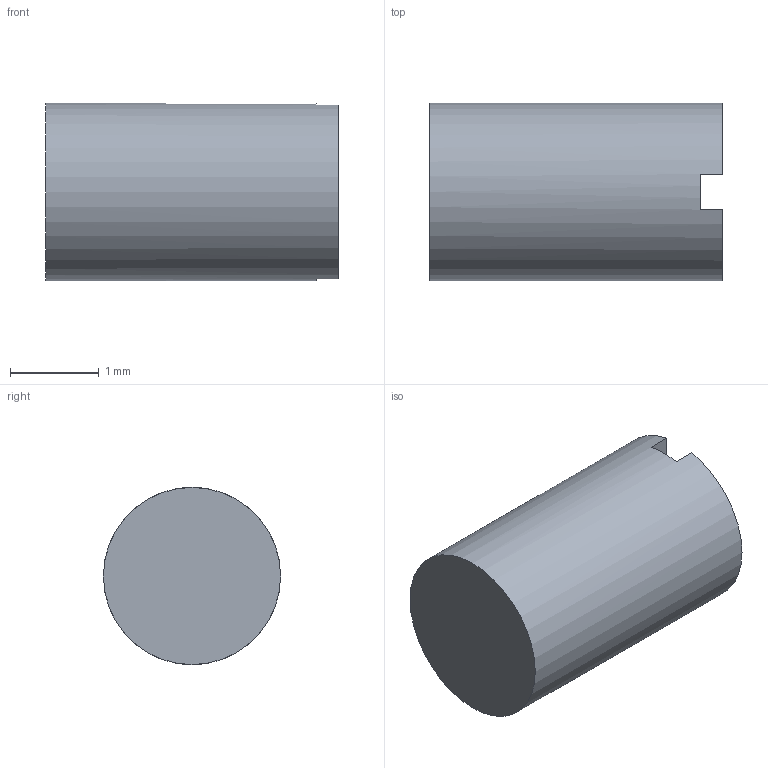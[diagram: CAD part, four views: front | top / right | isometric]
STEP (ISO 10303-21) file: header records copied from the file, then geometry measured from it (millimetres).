
FILE_DESCRIPTION(('Open CASCADE Model'),'2;1');
FILE_NAME('Open CASCADE Shape Model','2026-09-06T11:31:34',('Author'),( 'Open CASCADE'),'Open CASCADE STEP processor 7.7','Open CASCADE 7.7' ,'Unknown');
FILE_SCHEMA(('AUTOMOTIVE_DESIGN { 1 0 10303 214 1 1 1 1 }'));
Length unit declared in the file: millimetre
Products named in the file (1): Open CASCADE STEP translator 7.7 28
Bounding box: 3.3 x 2 x 2 mm (x, y, z)
Volume: 10.2 mm3; surface area: 27.8 mm2
Topology: 1 solids, 1 shells, 7 faces, 15 edges, 10 vertices
Faces by surface type: plane 6, cylinder 1
Full cylindrical faces by diameter (mm): 2 x1
Entity records: 409 total; most frequent: CARTESIAN_POINT 81, DIRECTION 64, LINE 33, VECTOR 33, ORIENTED_EDGE 30, PCURVE 30, DEFINITIONAL_REPRESENTATION 30, EDGE_CURVE 15
